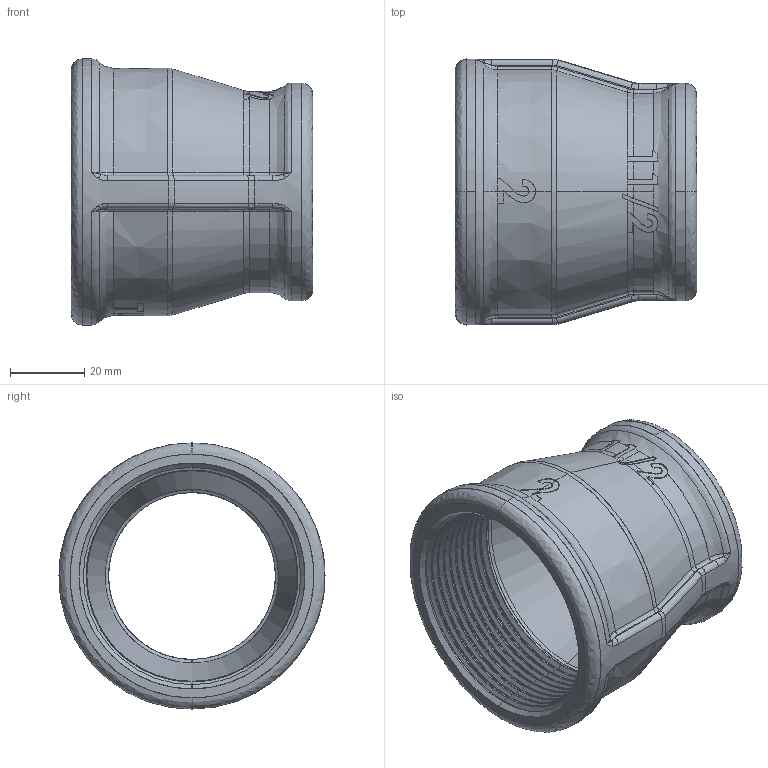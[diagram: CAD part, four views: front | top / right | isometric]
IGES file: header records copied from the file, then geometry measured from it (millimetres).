
Start section: SolidWorks IGES file using analytic representation for surfaces
Global section: file name: C:\Users\Joel Rosa\Desktop\Tubulação\12-32-OK\12-32-047.IGS; native system: SolidWorks 2011; preprocessor: SolidWorks 2011; author: Joel Rosa; date: 121208.230310; units: millimetre
Bounding box: 65 x 71.6 x 71.6 mm (x, y, z)
Surface area: 30940.3 mm2 (no closed solid volume)
Topology: 0 solids, 0 shells, 435 faces, 3613 edges, 3609 vertices
Faces by surface type: bspline 301, revolution 134
